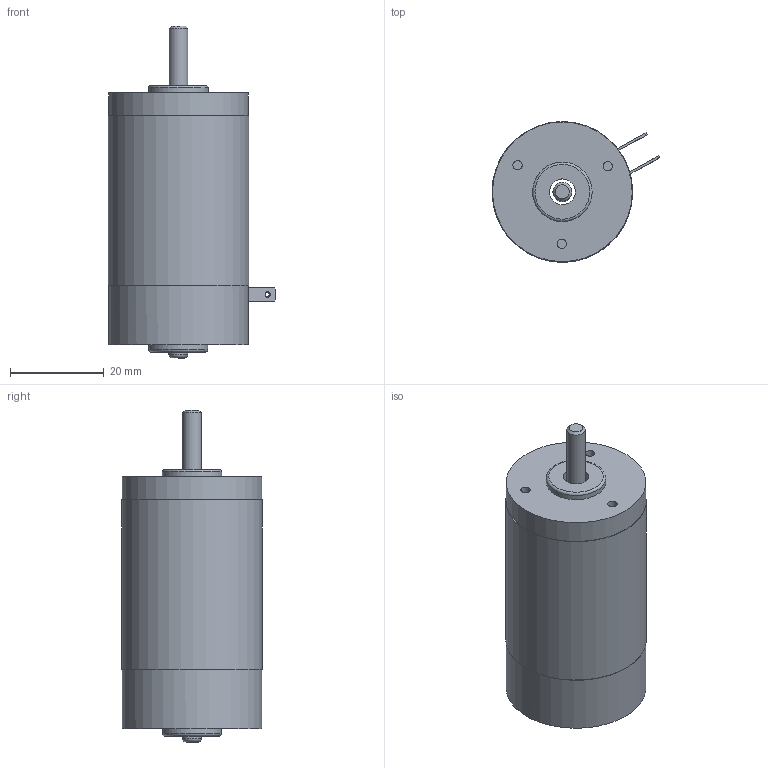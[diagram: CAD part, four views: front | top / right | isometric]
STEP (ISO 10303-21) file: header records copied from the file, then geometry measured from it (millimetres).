
FILE_DESCRIPTION((''),'2;1');
FILE_NAME('D:\연구개발부2팀 1파트\10_진행업무\3D\RM3_SERIES\RM33ㅁBT.stp','2014-06-23T09:59:27',('song'),(''),'Autodesk Inventor 2011','Autodesk Inventor 2011','');
FILE_SCHEMA(('AUTOMOTIVE_DESIGN { 1 0 10303 214 1 1 1 1 }'));
Length unit declared in the file: millimetre
Products named in the file (7): RM33ㅁBT; RM33_SHAFT; RM3_PIPE_HOUSING_30X36.2; AS 1427 Z - 미터 M2.5 x 8; RM3_front; RM3_REAR_HOUSING; RM3_BRUSH_TERMINAL_TYPE
Assembly tree (7 placements, depth 2):
  RM33ㅁBT
    RM33_SHAFT
    RM3_PIPE_HOUSING_30X36.2
    AS 1427 Z - 미터 M2.5 x 8  x2
    RM3_front
    RM3_REAR_HOUSING
    RM3_BRUSH_TERMINAL_TYPE
Bounding box: 35.81 x 29.99 x 70.81 mm (x, y, z)
Volume: 26055.6 mm3; surface area: 13446 mm2
Topology: 7 solids, 7 shells, 145 faces, 354 edges, 231 vertices
Faces by surface type: plane 70, cone 35, cylinder 29, torus 11
Full cylindrical faces by diameter (mm): 1.2 x2, 1.8 x3, 2 x3, 2.224 x2, 2.5 x2, 2.6 x2, 3.969 x1, 4 x1, 4.4 x2, 5.5 x1, 6.5 x1, 12.6 x1, 12.7 x1, 17.855 x1, 27.2 x1, 29.8 x2, 30 x1
Entity records: 3241 total; most frequent: CARTESIAN_POINT 718, DIRECTION 498, ORIENTED_EDGE 412, AXIS2_PLACEMENT_3D 210, EDGE_CURVE 206, EDGE_LOOP 170, VERTEX_POINT 154, FACE_OUTER_BOUND 104
